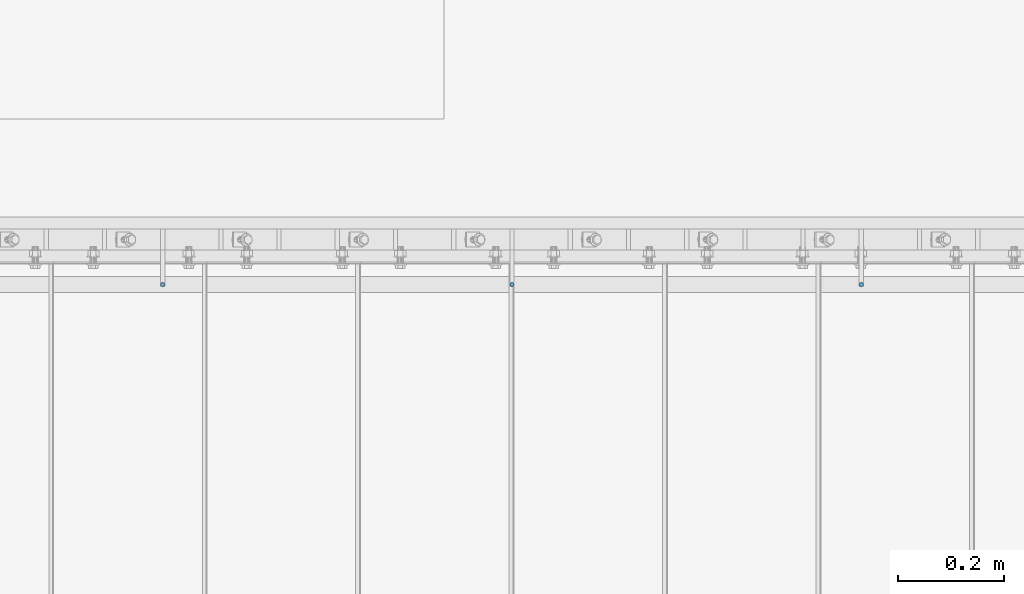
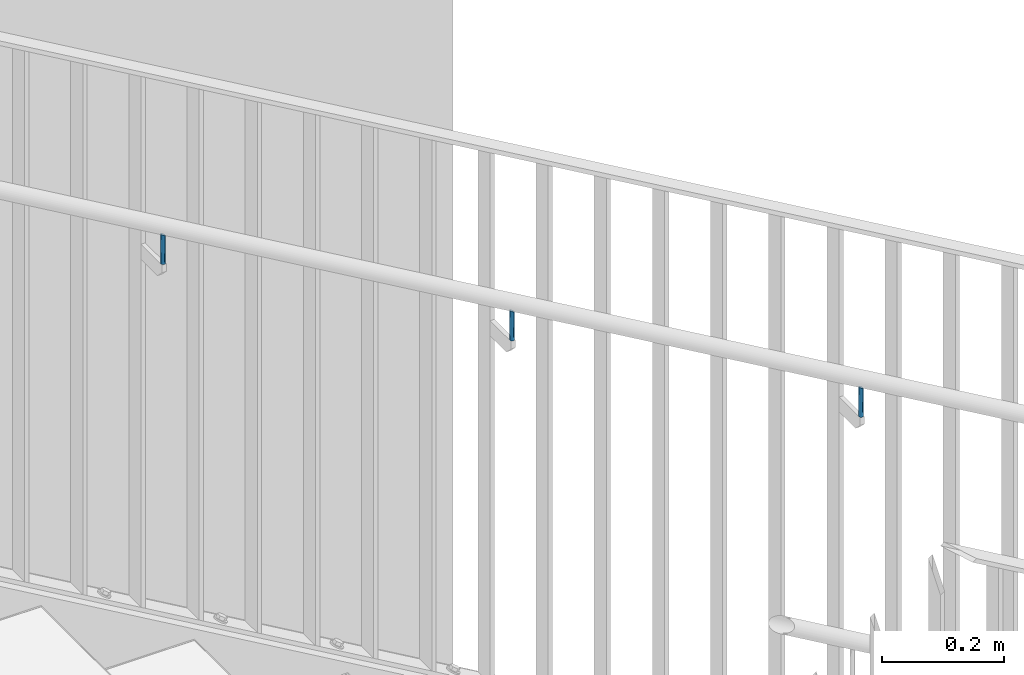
# One storey, part 10 of 145: 3 columns, 3 openings.
"""IFC2X3 building model written with IfcOpenShell, lengths in millimetres."""

from ifc_helpers import new_model, entity, si_unit, converted_unit, frame, origin, origin_with_axes, origin_2d, place, context, project, spatial, polyline, circle, outline, extrude, material, element, save


model = new_model("IFC2X3")

# Units and contexts
model_context = context("Model", 3, precision=1e-09, world=origin_with_axes())
ifc_project = project(units=[si_unit("LENGTHUNIT", "METRE", prefix="MILLI"), si_unit("AREAUNIT", "SQUARE_METRE"), si_unit("VOLUMEUNIT", "CUBIC_METRE"), converted_unit("PLANEANGLEUNIT", "DEGREE", entity("IfcPlaneAngleMeasure", 0.01745329), si_unit("PLANEANGLEUNIT", "RADIAN"), dimensions=[0, 0, 0, 0, 0, 0, 0])], contexts=[model_context])

# Site, building, storey
site_placement = place(None, origin_with_axes())
site = spatial("IfcSite", under=ifc_project, at=site_placement, Name="BZ1 Grund- und Mittelschule 85716 Unterschlei?heim", CompositionType="ELEMENT")
building_placement = place(site_placement, origin_with_axes())
building = spatial("IfcBuilding", under=site, at=building_placement, Name="Struktur 1", CompositionType="ELEMENT")
storey_placement = place(building_placement, origin_with_axes())
storey = spatial("IfcBuildingStorey", under=building, at=storey_placement, Name="Default Storey", CompositionType="ELEMENT", Elevation=0.0)

# Column, opening
ifc_material = material(Name="1.4301")
column_1_placement = place(None, frame((18093.141490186, -312.506106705, 3550.560110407), z_axis=(0.0, 0.0, -1.0), x_axis=(0.0, 1.0, 0.0)))
column_1 = element("IfcColumn", 1, at=column_1_placement, inside=storey, material=ifc_material, Name="-", ObjectType="-", context=model_context, shape_type="SweptSolid", body=[
    extrude(circle(Radius=4.0, at=origin_2d()), origin(), (0.0, 0.0, -1.0), 60.0),
])
opening_1_placement = place(column_1_placement, frame((-104.1, 0.0, -60.0), z_axis=(1.0, 0.0, 0.0), x_axis=(0.0, -1.0, 0.0)))
element("IfcOpeningElement", 2, at=opening_1_placement, cuts=column_1, ObjectType="Opening", context=model_context, shape_type="SweptSolid", body=[
    extrude(outline(polyline([(-13.305390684, -10.064322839), (15.967881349, 6.958222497), (-18.138790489, 6.958222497), (-13.305390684, -10.064322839)])), origin(), (0.0, 0.0, 1.0), 208.2),
])

column_2_placement = place(None, frame((18753.141490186, -312.506106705, 3166.767006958), z_axis=(0.0, 0.0, -1.0), x_axis=(0.0, 1.0, 0.0)))
column_2 = element("IfcColumn", 3, at=column_2_placement, inside=storey, material=ifc_material, Name="-", ObjectType="-", context=model_context, shape_type="SweptSolid", body=[
    extrude(circle(Radius=4.0, at=origin_2d()), origin(), (0.0, 0.0, -1.0), 60.0),
])
opening_2_placement = place(column_2_placement, frame((-104.1, 0.0, -60.0), z_axis=(1.0, 0.0, 0.0), x_axis=(0.0, -1.0, 0.0)))
element("IfcOpeningElement", 4, at=opening_2_placement, cuts=column_2, ObjectType="Opening", context=model_context, shape_type="SweptSolid", body=[
    extrude(outline(polyline([(-13.305390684, -10.064322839), (15.967881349, 6.958222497), (-18.138790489, 6.958222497), (-13.305390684, -10.064322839)])), origin(), (0.0, 0.0, 1.0), 208.2),
])

column_3_placement = place(None, frame((19413.141490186, -312.506106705, 2782.97390351), z_axis=(0.0, 0.0, -1.0), x_axis=(0.0, 1.0, 0.0)))
column_3 = element("IfcColumn", 5, at=column_3_placement, inside=storey, material=ifc_material, Name="-", ObjectType="-", context=model_context, shape_type="SweptSolid", body=[
    extrude(circle(Radius=4.0, at=origin_2d()), origin(), (0.0, 0.0, -1.0), 60.0),
])
opening_3_placement = place(column_3_placement, frame((-104.1, 0.0, -60.0), z_axis=(1.0, 0.0, 0.0), x_axis=(0.0, -1.0, 0.0)))
element("IfcOpeningElement", 6, at=opening_3_placement, cuts=column_3, ObjectType="Opening", context=model_context, shape_type="SweptSolid", body=[
    extrude(outline(polyline([(-13.305390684, -10.064322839), (15.967881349, 6.958222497), (-18.138790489, 6.958222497), (-13.305390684, -10.064322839)])), origin(), (0.0, 0.0, 1.0), 208.2),
])

save(model, "model.ifc")
